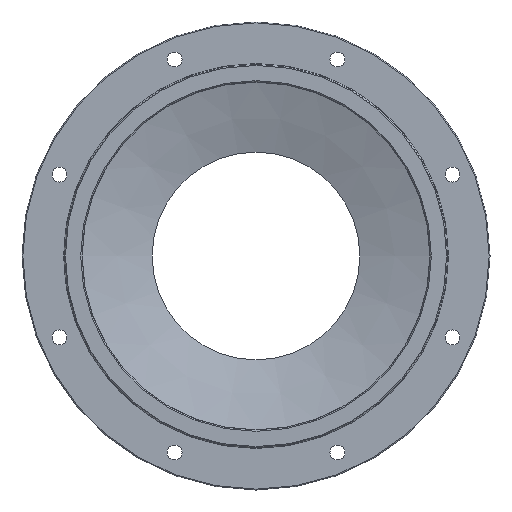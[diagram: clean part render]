
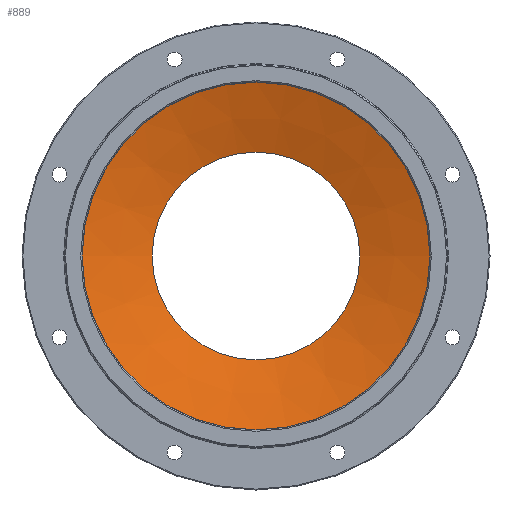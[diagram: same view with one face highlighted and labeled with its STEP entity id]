
A CAD part, front view. The second image highlights one B-rep face of the part: STEP entity #889.
In plain terms, the highlighted conical face has half-angle 72.962 degrees and reference radius 163.5 mm.
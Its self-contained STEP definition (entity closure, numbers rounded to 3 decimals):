
#827=CARTESIAN_POINT('',(-204.293,-29.549,0.));
#828=VERTEX_POINT('',#827);
#829=CARTESIAN_POINT('',(0.0,-29.549,0.));
#830=DIRECTION('',(0.0,1.0,0.0));
#831=DIRECTION('',(1.0,0.0,0.0));
#832=AXIS2_PLACEMENT_3D('',#829,#830,#831);
#833=CIRCLE('',#832,204.293);
#834=EDGE_CURVE('',#828,#828,#833,.T.);
#870=CARTESIAN_POINT('',(0.0,-17.048,0.0));
#871=DIRECTION('',(0.0,-1.0,0.0));
#872=DIRECTION('',(-1.0,0.0,0.0));
#873=AXIS2_PLACEMENT_3D('',#870,#871,#872);
#874=CONICAL_SURFACE('',#873,163.5,72.962);
#875=CARTESIAN_POINT('',(-122.,-4.33,0.));
#876=VERTEX_POINT('',#875);
#877=CARTESIAN_POINT('',(0.0,-4.33,0.0));
#878=DIRECTION('',(0.0,1.0,0.0));
#879=DIRECTION('',(-1.0,0.0,0.0));
#880=AXIS2_PLACEMENT_3D('',#877,#878,#879);
#881=CIRCLE('',#880,122.);
#882=EDGE_CURVE('',#876,#876,#881,.T.);
#883=ORIENTED_EDGE('',*,*,#882,.T.);
#884=EDGE_LOOP('',(#883));
#885=FACE_OUTER_BOUND('',#884,.T.);
#886=ORIENTED_EDGE('',*,*,#834,.F.);
#887=EDGE_LOOP('',(#886));
#888=FACE_BOUND('',#887,.T.);
#889=ADVANCED_FACE('',(#885,#888),#874,.F.);
